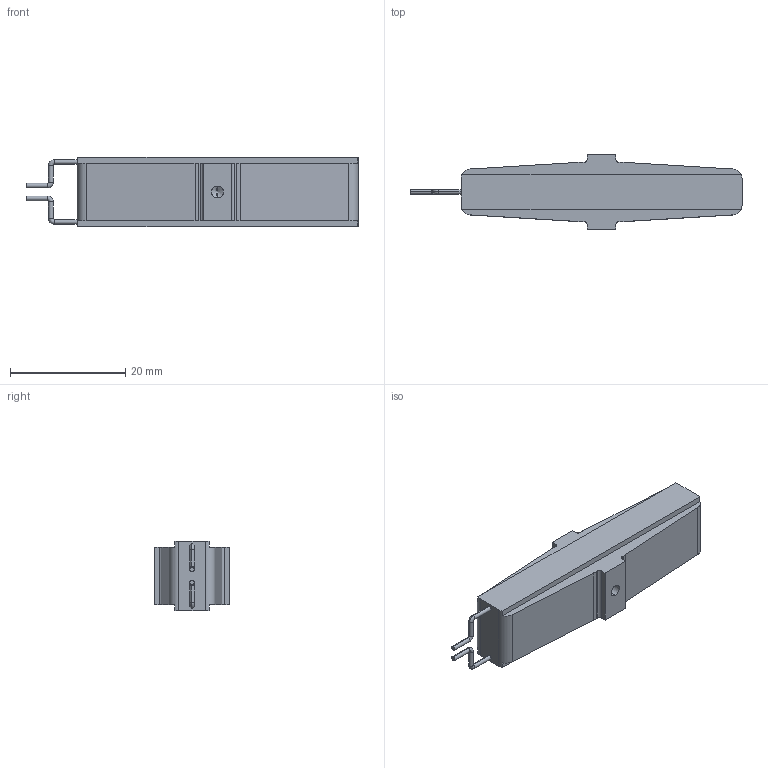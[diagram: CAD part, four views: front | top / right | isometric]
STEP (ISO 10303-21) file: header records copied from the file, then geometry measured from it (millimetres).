
FILE_DESCRIPTION (( 'STEP AP203' ), '1' );
FILE_NAME ('P06.400KA5-25.07.02.STEP', '2025-07-02T01:01:48', ( 'PC' ), ( 'Microsoft' ), 'SwSTEP 2.0', 'SolidWorks 2016', '' );
FILE_SCHEMA (( 'CONFIG_CONTROL_DESIGN' ));
Length unit declared in the file: millimetre
Products named in the file (1): P06.400KA5-25.07.02
Bounding box: 57.55 x 13 x 12 mm (x, y, z)
Volume: 5187.1 mm3; surface area: 2379 mm2
Topology: 1 solids, 1 shells, 68 faces, 172 edges, 106 vertices
Faces by surface type: cylinder 28, plane 28, torus 8, cone 4
Entity records: 2097 total; most frequent: DIRECTION 378, CARTESIAN_POINT 343, ORIENTED_EDGE 336, EDGE_CURVE 168, AXIS2_PLACEMENT_3D 141, VERTEX_POINT 106, VECTOR 96, LINE 96
